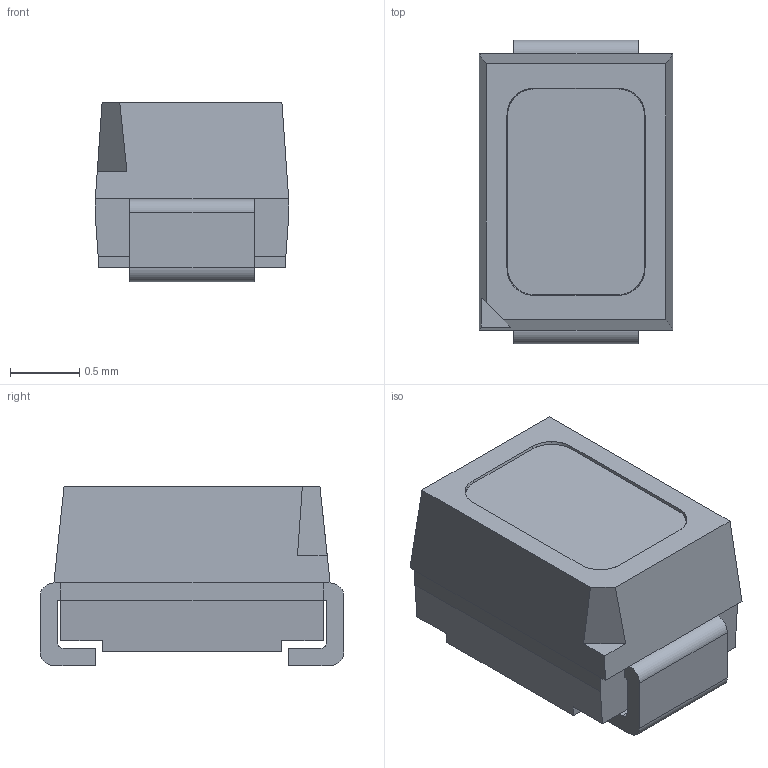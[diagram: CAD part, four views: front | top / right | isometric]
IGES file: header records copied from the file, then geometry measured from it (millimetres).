
Start section: 3D InterOp IGES (Version 20 0 3), Spatial Corp. Copyright (c) 1999-2007.
Global section: file name: DNZB-LJG_291019.igs; native system: Spatial Corp.; preprocessor: 3D InterOp ACIS/IGES; author: Noname; organization: Noname; date: 20200210.103231; units: millimetre
Bounding box: 1.4 x 2.2 x 1.3 mm (x, y, z)
Surface area: 16.4 mm2 (no closed solid volume)
Topology: 0 solids, 0 shells, 65 faces, 344 edges, 344 vertices
Faces by surface type: extrusion 45, revolution 20
